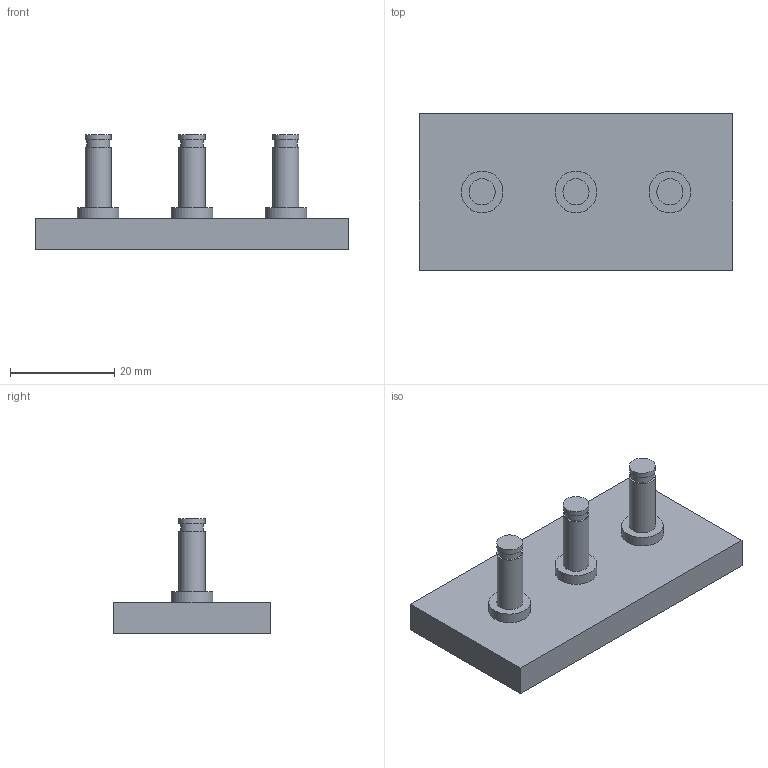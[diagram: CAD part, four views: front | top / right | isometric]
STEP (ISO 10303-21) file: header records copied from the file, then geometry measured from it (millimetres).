
FILE_DESCRIPTION(('Open CASCADE Model'),'2;1');
FILE_NAME('CP-CLIP-BOARD','2026-11-15T22:30:29',('Author'),( 'Open CASCADE'),'Open CASCADE STEP processor 8.0','build123d', 'Unknown');
FILE_SCHEMA(('AUTOMOTIVE_DESIGN { 1 0 10303 214 1 1 1 1 }'));
Length unit declared in the file: millimetre
Products named in the file (1): CP-CLIP-BOARD
Bounding box: 60 x 30 x 22 mm (x, y, z)
Volume: 11907.7 mm3; surface area: 5509.2 mm2
Topology: 1 solids, 1 shells, 30 faces, 48 edges, 32 vertices
Faces by surface type: plane 18, cylinder 12
Full cylindrical faces by diameter (mm): 4.4 x3, 5 x6, 8 x3
Entity records: 1330 total; most frequent: DIRECTION 230, CARTESIAN_POINT 207, ORIENTED_EDGE 96, LINE 96, VECTOR 96, PCURVE 96, DEFINITIONAL_REPRESENTATION 96, AXIS2_PLACEMENT_3D 55
